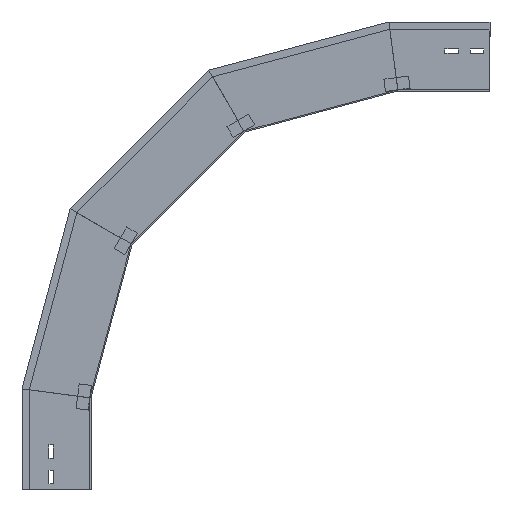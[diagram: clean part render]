
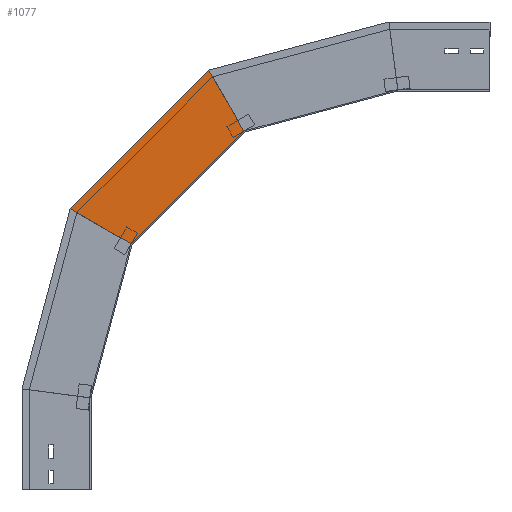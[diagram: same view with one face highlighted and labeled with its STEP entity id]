
A CAD part, left-side view. The second image highlights one B-rep face of the part: STEP entity #1077.
In plain terms, the highlighted planar face has unit normal (-1, 0, 0) as drawn and (1, 0, 0) by its records, which use the part's own axes.
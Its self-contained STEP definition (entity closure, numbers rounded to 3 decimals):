
#13 = VERTEX_POINT ( 'NONE', #309 ) ;
#28 = CARTESIAN_POINT ( 'NONE',  ( 0., -67.034, 400.175 ) ) ;
#123 = EDGE_CURVE ( 'NONE', #217, #13, #336, .T. ) ;
#128 = VECTOR ( 'NONE', #314, 1000. ) ;
#129 = DIRECTION ( 'NONE',  ( 1., 0., 0. ) ) ;
#137 = FACE_OUTER_BOUND ( 'NONE', #1669, .T. ) ;
#217 = VERTEX_POINT ( 'NONE', #28 ) ;
#309 = CARTESIAN_POINT ( 'NONE',  ( 0., -250.175, 583.315 ) ) ;
#314 = DIRECTION ( 'NONE',  ( 0., -0.866, -0.5 ) ) ;
#336 = LINE ( 'NONE', #1698, #564 ) ;
#337 = CARTESIAN_POINT ( 'NONE',  ( 0., -287.996, 517.807 ) ) ;
#351 = ORIENTED_EDGE ( 'NONE', *, *, #1271, .F. ) ;
#486 = LINE ( 'NONE', #1072, #1825 ) ;
#564 = VECTOR ( 'NONE', #932, 1000. ) ;
#572 = CARTESIAN_POINT ( 'NONE',  ( 0., -43.517, 376.657 ) ) ;
#578 = PLANE ( 'NONE',  #1248 ) ;
#640 = ORIENTED_EDGE ( 'NONE', *, *, #826, .T. ) ;
#826 = EDGE_CURVE ( 'NONE', #856, #13, #1202, .T. ) ;
#841 = VECTOR ( 'NONE', #1230, 1000. ) ;
#856 = VERTEX_POINT ( 'NONE', #1626 ) ;
#932 = DIRECTION ( 'NONE',  ( 0., -0.707, 0.707 ) ) ;
#1072 = CARTESIAN_POINT ( 'NONE',  ( 0., 36.033, 456.207 ) ) ;
#1077 = ADVANCED_FACE ( 'NONE', ( #137 ), #578, .T. ) ;
#1098 = ORIENTED_EDGE ( 'NONE', *, *, #123, .F. ) ;
#1109 = VERTEX_POINT ( 'NONE', #1595 ) ;
#1202 = LINE ( 'NONE', #337, #841 ) ;
#1230 = DIRECTION ( 'NONE',  ( 0., -0.5, -0.866 ) ) ;
#1233 = DIRECTION ( 'NONE',  ( 0., -0.707, 0.707 ) ) ;
#1248 = AXIS2_PLACEMENT_3D ( 'NONE', #572, #129, #1296 ) ;
#1271 = EDGE_CURVE ( 'NONE', #1109, #217, #1472, .T. ) ;
#1296 = DIRECTION ( 'NONE',  ( 0., 0., -1. ) ) ;
#1331 = CARTESIAN_POINT ( 'NONE',  ( 0., -128.762, 364.536 ) ) ;
#1472 = LINE ( 'NONE', #1331, #128 ) ;
#1595 = CARTESIAN_POINT ( 'NONE',  ( 0., 33.831, 458.409 ) ) ;
#1621 = ORIENTED_EDGE ( 'NONE', *, *, #1697, .T. ) ;
#1626 = CARTESIAN_POINT ( 'NONE',  ( 0., -191.941, 684.18 ) ) ;
#1669 = EDGE_LOOP ( 'NONE', ( #1621, #640, #1098, #351 ) ) ;
#1697 = EDGE_CURVE ( 'NONE', #1109, #856, #486, .T. ) ;
#1698 = CARTESIAN_POINT ( 'NONE',  ( 0., -43.517, 376.657 ) ) ;
#1825 = VECTOR ( 'NONE', #1233, 1000. ) ;
